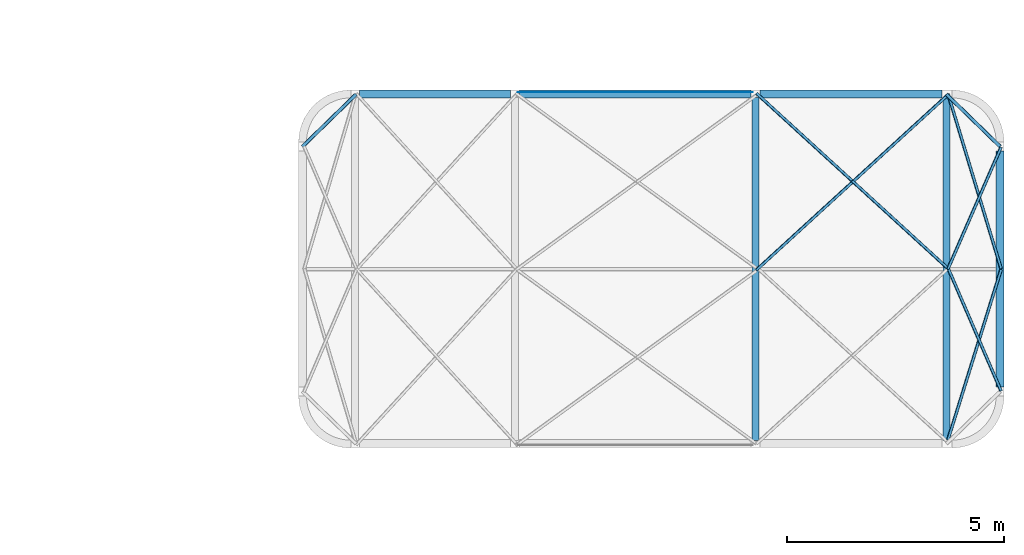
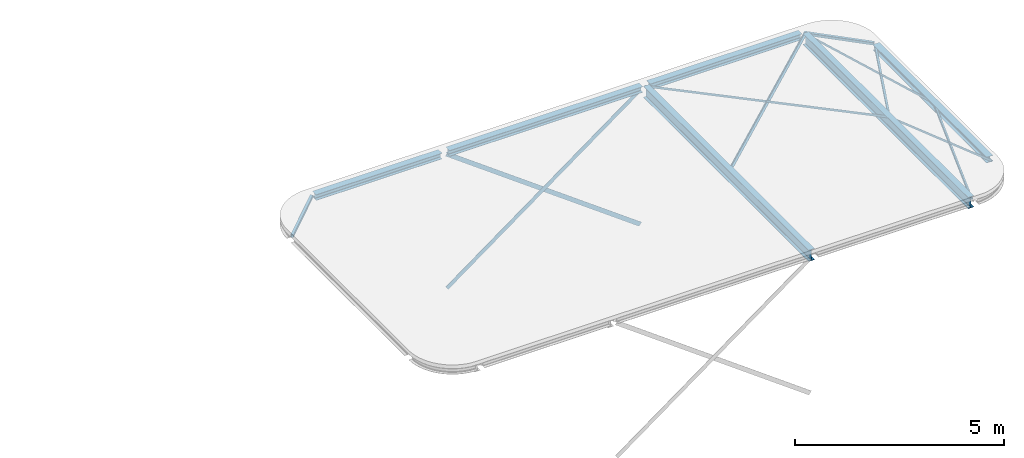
# One storey, part 4 of 14: 16 beams.
"""IFC2X3 building model written with IfcOpenShell, lengths in millimetres."""

from ifc_helpers import new_model, entity, si_unit, converted_unit, derived_unit, direction, frame, frame_2d, origin, place, context, subcontext, project, spatial, polyline, circle_curve, parameter, trimmed, segment, composite_curve, rectangle, i_section, outline, extrude, material, type_object, element, save


model = new_model("IFC2X3")

# Units and contexts
model_context = context("Model", 3, precision=0.01, world=origin(), true_north=direction((6.123031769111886e-17, 1.0)))
body_context = subcontext(model_context, "Body", "Model", "MODEL_VIEW")
ifc_project = project(units=[si_unit("LENGTHUNIT", "METRE", prefix="MILLI"), si_unit("AREAUNIT", "SQUARE_METRE"), si_unit("VOLUMEUNIT", "CUBIC_METRE"), derived_unit("MASSDENSITYUNIT", [(si_unit("MASSUNIT", "GRAM", prefix="KILO"), 1), (si_unit("LENGTHUNIT", "METRE"), -3)]), si_unit("MASSUNIT", "GRAM", prefix="KILO"), converted_unit("PLANEANGLEUNIT", "DEGREE", entity("IfcPlaneAngleMeasure", 0.017453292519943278), si_unit("PLANEANGLEUNIT", "RADIAN"), dimensions=[0, 0, 0, 0, 0, 0, 0])], contexts=[model_context])

# Site, building, storey
site_placement = place(None, origin())
site = spatial("IfcSite", under=ifc_project, at=site_placement, Name="Default", CompositionType="ELEMENT")
building_placement = place(site_placement, origin())
building = spatial("IfcBuilding", under=site, at=building_placement, Name="AT constructie", CompositionType="ELEMENT")
storey_placement = place(building_placement, frame((0.0, 0.0, 12043.0)))
storey = spatial("IfcBuildingStorey", under=building, at=storey_placement, Name="03 derde verdieping", CompositionType="ELEMENT", Elevation=12043.0)

# Beams
ifc_material = material(Name="h2_staal_S355")
beam_type_1 = type_object("IfcBeamType", Name="balk HE_gen_HEA180", PredefinedType="NOTDEFINED")
beam_1_placement = place(storey_placement, frame((89327.3746311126, 31391.043508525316, 0.0), z_axis=(0.0, 0.0, 1.0), x_axis=(-1.0, 0.0, 0.0)))
element("IfcBeam", 1, at=beam_1_placement, inside=storey, type_object=beam_type_1, material=ifc_material, Name="NLRS_28_SF_LIB_balk HEA_gen_AT:balk HE_gen_HEA180", ObjectType="NLRS_28_SF_LIB_balk HEA_gen_AT:balk HE_gen_HEA180", context=body_context, shape_type="SweptSolid", body=[
    extrude(i_section(OverallWidth=180.0000000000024, OverallDepth=171.0000000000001, WebThickness=5.999999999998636, FlangeThickness=9.500000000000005, FilletRadius=15.000000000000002, at=frame_2d((0.0, -4.334310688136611e-12), x_axis=(0.0, 1.0))), frame((22.69999999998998, 90.0, -85.50000000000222), z_axis=(1.0, 0.0, 0.0), x_axis=(0.0, 0.0, -1.0)), (0.0, 0.0, 1.0), 3475.1000000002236),
])
beam_2_placement = place(storey_placement, frame((94846.87463111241, 31391.043508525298, 0.0), z_axis=(0.0, 0.0, 1.0), x_axis=(-1.0, 0.0, 0.0)))
element("IfcBeam", 2, at=beam_2_placement, inside=storey, type_object=beam_type_1, material=ifc_material, Name="NLRS_28_SF_LIB_balk HEA_gen_AT:balk HE_gen_HEA180", ObjectType="NLRS_28_SF_LIB_balk HEA_gen_AT:balk HE_gen_HEA180", context=body_context, shape_type="SweptSolid", body=[
    extrude(i_section(OverallWidth=180.0000000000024, OverallDepth=171.0000000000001, WebThickness=5.999999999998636, FlangeThickness=9.500000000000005, FilletRadius=15.000000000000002, at=frame_2d((0.0, -4.334310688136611e-12), x_axis=(0.0, 1.0))), frame((2.6999999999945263, 90.0, -85.50000000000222), z_axis=(1.0, 0.0, 0.0), x_axis=(0.0, 0.0, -1.0)), (0.0, 0.0, 1.0), 5334.099999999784),
])
beam_3_placement = place(storey_placement, frame((99266.87463111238, 31391.043508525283, 0.0), z_axis=(0.0, 0.0, 1.0), x_axis=(-1.0, 0.0, 0.0)))
element("IfcBeam", 3, at=beam_3_placement, inside=storey, type_object=beam_type_1, material=ifc_material, Name="NLRS_28_SF_LIB_balk HEA_gen_AT:balk HE_gen_HEA180", ObjectType="NLRS_28_SF_LIB_balk HEA_gen_AT:balk HE_gen_HEA180", context=body_context, shape_type="SweptSolid", body=[
    extrude(i_section(OverallWidth=180.0000000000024, OverallDepth=171.0000000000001, WebThickness=5.999999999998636, FlangeThickness=9.500000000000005, FilletRadius=15.000000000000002, at=frame_2d((0.0, 0.0), x_axis=(0.0, 1.0))), frame((22.699999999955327, 90.0, -85.50000000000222), z_axis=(1.0, 0.0, 0.0), x_axis=(0.0, 0.0, -1.0)), (0.0, 0.0, 1.0), 4194.599999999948),
])
beam_4_placement = place(storey_placement, frame((100666.87463111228, 29991.043508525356, 0.0), z_axis=(0.0, 0.0, 1.0), x_axis=(0.0, -1.0, 0.0)))
element("IfcBeam", 4, at=beam_4_placement, inside=storey, type_object=beam_type_1, material=ifc_material, Name="NLRS_28_SF_LIB_balk HEA_gen_AT:balk HE_gen_HEA180", ObjectType="NLRS_28_SF_LIB_balk HEA_gen_AT:balk HE_gen_HEA180", context=body_context, shape_type="SweptSolid", body=[
    extrude(i_section(OverallWidth=179.99999999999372, OverallDepth=171.0000000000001, WebThickness=5.999999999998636, FlangeThickness=9.500000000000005, FilletRadius=15.000000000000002, at=frame_2d((-1.7330137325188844e-11, 0.0), x_axis=(1.0, 0.0))), frame((2.7000000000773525, -90.0, -85.50000000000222), z_axis=(1.0, 0.0, 0.0), x_axis=(0.0, -1.0, 0.0)), (0.0, 0.0, 1.0), 5434.599999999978),
])
beam_type_2 = type_object("IfcBeamType", Name="balk strip liggend_gen_120x10", PredefinedType="NOTDEFINED")
beam_5_placement = place(storey_placement, frame((89507.37463111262, 31346.04350852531, -176.34482473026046), z_axis=(0.5913336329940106, 0.0, 0.8064270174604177), x_axis=(0.8064270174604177, 0.0, -0.5913336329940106)))
element("IfcBeam", 5, at=beam_5_placement, inside=storey, type_object=beam_type_2, material=ifc_material, Name="NLRS_28_SF_LIB_balk strip_gen_AT:balk strip liggend_gen_120x10", ObjectType="NLRS_28_SF_LIB_balk strip_gen_AT:balk strip liggend_gen_120x10", context=body_context, shape_type="SweptSolid", body=[
    extrude(rectangle(XDim=119.99999999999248, YDim=10.000000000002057, at=frame_2d((0.0, -4.331646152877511e-12), x_axis=(1.0, 0.0))), frame((0.0, -5.0, 0.0), z_axis=(1.0, 0.0, 0.0), x_axis=(0.0, 0.0, -1.0)), (0.0, 0.0, 1.0), 6621.18193511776),
])
beam_6_placement = place(storey_placement, frame((94846.87463111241, 31346.04350852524, -170.41491895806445), z_axis=(-0.591904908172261, 0.0, 0.8060078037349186), x_axis=(-0.8060078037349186, 0.0, -0.591904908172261)))
element("IfcBeam", 6, at=beam_6_placement, inside=storey, type_object=beam_type_2, material=ifc_material, Name="NLRS_28_SF_LIB_balk strip_gen_AT:balk strip liggend_gen_120x10", ObjectType="NLRS_28_SF_LIB_balk strip_gen_AT:balk strip liggend_gen_120x10", context=body_context, shape_type="SweptSolid", body=[
    extrude(rectangle(XDim=119.99999999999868, YDim=10.000000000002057, at=frame_2d((0.0, 2.1658230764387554e-12), x_axis=(1.0, 0.0))), frame((0.0, 5.0, 0.0), z_axis=(1.0, 0.0, 0.0), x_axis=(0.0, 0.0, -1.0)), (0.0, 0.0, 1.0), 6624.625686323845),
])
beam_type_3 = type_object("IfcBeamType", Name="balk_gen_K80x80x4", PredefinedType="NOTDEFINED")
beam_7_placement = place(storey_placement, frame((99343.8746311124, 31292.533681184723, 0.0), z_axis=(0.0, 0.0, 1.0), x_axis=(0.7165996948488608, -0.6974846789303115, 0.0)))
element("IfcBeam", 7, at=beam_7_placement, inside=storey, type_object=beam_type_3, material=ifc_material, Name="NLRS_28_SF_LIB_balk koker vierkant_gen_AT:balk_gen_K80x80x4", ObjectType="NLRS_28_SF_LIB_balk koker vierkant_gen_AT:balk_gen_K80x80x4", context=body_context, shape_type="SweptSolid", body=[
    extrude(outline(composite_curve([segment(polyline([(-31.0, -40.0), (31.0, -40.0)]), True, "CONTINUOUS"), segment(trimmed(circle_curve(frame_2d((31.0, -31.0), x_axis=(0.0, -1.0)), 9.0), [parameter(359.9999999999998)], [parameter(89.99999999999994)], True, "PARAMETER"), True, "CONTINUOUS"), segment(polyline([(40.0, -31.0), (40.0, 31.0)]), True, "CONTINUOUS"), segment(trimmed(circle_curve(frame_2d((31.0, 31.0), x_axis=(0.0, -1.0)), 9.0), [parameter(90.0000000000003)], [parameter(180.00000000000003)], True, "PARAMETER"), True, "CONTINUOUS"), segment(polyline([(31.0, 40.0), (-31.0, 40.0)]), True, "CONTINUOUS"), segment(trimmed(circle_curve(frame_2d((-31.0, 31.0), x_axis=(0.0, -1.0)), 9.0), [parameter(179.99999999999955)], [parameter(269.9999999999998)], True, "PARAMETER"), True, "CONTINUOUS"), segment(polyline([(-40.0, 31.0), (-40.0, -31.0)]), True, "CONTINUOUS"), segment(trimmed(circle_curve(frame_2d((-31.0, -31.0), x_axis=(0.0, -1.0)), 9.0), [parameter(270.0000000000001)], [parameter(1.0177774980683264e-13)], True, "PARAMETER"), True, "CONTINUOUS")], self_intersect=False), holes=[composite_curve([segment(trimmed(circle_curve(frame_2d((-31.0, 31.0), x_axis=(0.0, -1.0)), 5.0), [parameter(180.0000000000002)], [parameter(270.0000000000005)], True, "PARAMETER"), False, "CONTINUOUS"), segment(polyline([(-31.0, 36.0), (31.0, 36.0)]), True, "CONTINUOUS"), segment(trimmed(circle_curve(frame_2d((31.0, 31.0), x_axis=(0.0, -1.0)), 5.0), [parameter(90.0000000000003)], [parameter(179.99999999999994)], True, "PARAMETER"), False, "CONTINUOUS"), segment(polyline([(36.0, 31.0), (36.0, -31.0)]), True, "CONTINUOUS"), segment(trimmed(circle_curve(frame_2d((31.0, -31.0), x_axis=(0.0, -1.0)), 5.0), [parameter(2.0355549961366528e-13)], [parameter(90.00000000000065)], True, "PARAMETER"), False, "CONTINUOUS"), segment(polyline([(31.0, -36.0), (-31.0, -36.0)]), True, "CONTINUOUS"), segment(trimmed(circle_curve(frame_2d((-31.0, -31.0), x_axis=(0.0, -1.0)), 5.0), [parameter(269.99999999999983)], [parameter(1.5266662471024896e-13)], True, "PARAMETER"), False, "CONTINUOUS"), segment(polyline([(-36.0, -31.0), (-36.0, 31.0)]), True, "CONTINUOUS")], self_intersect=False)]), frame((0.0, 0.0, -60.0), z_axis=(1.0, 0.0, 0.0), x_axis=(0.0, 0.0, -1.0)), (0.0, 0.0, 1.0), 1726.9055637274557),
])
beam_8_placement = place(storey_placement, frame((85749.87463111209, 31292.533681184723, 0.0), z_axis=(0.0, 0.0, 1.0), x_axis=(-0.7165996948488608, -0.6974846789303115, 0.0)))
element("IfcBeam", 8, at=beam_8_placement, inside=storey, type_object=beam_type_3, material=ifc_material, Name="NLRS_28_SF_LIB_balk koker vierkant_gen_AT:balk_gen_K80x80x4", ObjectType="NLRS_28_SF_LIB_balk koker vierkant_gen_AT:balk_gen_K80x80x4", context=body_context, shape_type="SweptSolid", body=[
    extrude(outline(composite_curve([segment(trimmed(circle_curve(frame_2d((31.0, 31.0), x_axis=(1.0, 0.0)), 9.0), [parameter(359.9999999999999)], [parameter(89.99999999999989)], True, "PARAMETER"), True, "CONTINUOUS"), segment(polyline([(31.0, 40.0), (-31.0, 40.0)]), True, "CONTINUOUS"), segment(trimmed(circle_curve(frame_2d((-31.0, 31.0), x_axis=(1.0, 0.0)), 9.0), [parameter(90.00000000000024)], [parameter(180.00000000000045)], True, "PARAMETER"), True, "CONTINUOUS"), segment(polyline([(-40.0, 31.0), (-40.0, -31.0)]), True, "CONTINUOUS"), segment(trimmed(circle_curve(frame_2d((-31.0, -31.0), x_axis=(1.0, 0.0)), 9.0), [parameter(179.99999999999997)], [parameter(269.9999999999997)], True, "PARAMETER"), True, "CONTINUOUS"), segment(polyline([(-31.0, -40.0), (31.0, -40.0)]), True, "CONTINUOUS"), segment(trimmed(circle_curve(frame_2d((31.0, -31.0), x_axis=(1.0, 0.0)), 9.0), [parameter(270.00000000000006)], [parameter(2.544443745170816e-13)], True, "PARAMETER"), True, "CONTINUOUS"), segment(polyline([(40.0, -31.0), (40.0, 31.0)]), True, "CONTINUOUS")], self_intersect=False), holes=[composite_curve([segment(polyline([(-31.0, 36.0), (31.0, 36.0)]), True, "CONTINUOUS"), segment(trimmed(circle_curve(frame_2d((31.0, 31.0), x_axis=(1.0, 0.0)), 5.0), [parameter(359.99999999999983)], [parameter(90.00000000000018)], True, "PARAMETER"), False, "CONTINUOUS"), segment(polyline([(36.0, 31.0), (36.0, -31.0)]), True, "CONTINUOUS"), segment(trimmed(circle_curve(frame_2d((31.0, -31.0), x_axis=(1.0, 0.0)), 5.0), [parameter(269.9999999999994)], [parameter(359.9999999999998)], True, "PARAMETER"), False, "CONTINUOUS"), segment(polyline([(31.0, -36.0), (-31.0, -36.0)]), True, "CONTINUOUS"), segment(trimmed(circle_curve(frame_2d((-31.0, -31.0), x_axis=(1.0, 0.0)), 5.0), [parameter(180.00000000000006)], [parameter(269.9999999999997)], True, "PARAMETER"), False, "CONTINUOUS"), segment(polyline([(-36.0, -31.0), (-36.0, 31.0)]), True, "CONTINUOUS"), segment(trimmed(circle_curve(frame_2d((-31.0, 31.0), x_axis=(1.0, 0.0)), 5.0), [parameter(89.99999999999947)], [parameter(179.9999999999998)], True, "PARAMETER"), False, "CONTINUOUS")], self_intersect=False)]), frame((0.0, 0.0, -60.0), z_axis=(1.0, 0.0, 0.0), x_axis=(0.0, 1.0, 0.0)), (0.0, 0.0, 1.0), 1726.9055637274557),
])
beam_type_4 = type_object("IfcBeamType", Name="balk IPE_gen_330", PredefinedType="NOTDEFINED")
beam_9_placement = place(storey_placement, frame((94946.87463111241, 23322.043549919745, 0.0), z_axis=(0.0, 0.0, 1.0), x_axis=(0.0, 1.0, 0.0)))
element("IfcBeam", 9, at=beam_9_placement, inside=storey, type_object=beam_type_4, material=ifc_material, Name="NLRS_28_SF_LIB_balk IPE_gen_AT:balk IPE_gen_330", ObjectType="NLRS_28_SF_LIB_balk IPE_gen_AT:balk IPE_gen_330", context=body_context, shape_type="SweptSolid", body=[
    extrude(outline(composite_curve([segment(polyline([(153.49999999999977, -80.0), (165.0, -80.0)]), True, "CONTINUOUS"), segment(polyline([(165.0, -80.0), (165.0, 80.0)]), True, "CONTINUOUS"), segment(polyline([(165.0, 80.0), (153.49999999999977, 80.0)]), True, "CONTINUOUS"), segment(polyline([(153.49999999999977, 80.0), (153.49999999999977, 21.749999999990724)]), True, "CONTINUOUS"), segment(trimmed(circle_curve(frame_2d((135.50000000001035, 21.749999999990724), x_axis=(1.0, 0.0)), 17.999999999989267), [parameter(269.99999999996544)], [parameter(0.0)], True, "PARAMETER"), False, "CONTINUOUS"), segment(polyline([(135.4999999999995, 3.749999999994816), (-135.49999999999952, 3.749999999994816)]), True, "CONTINUOUS"), segment(trimmed(circle_curve(frame_2d((-135.50000000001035, 21.749999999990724), x_axis=(0.0, -1.0)), 17.999999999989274), [parameter(269.99999999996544)], [parameter(0.0)], True, "PARAMETER"), False, "CONTINUOUS"), segment(polyline([(-153.49999999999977, 21.749999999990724), (-153.49999999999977, 80.0)]), True, "CONTINUOUS"), segment(polyline([(-153.49999999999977, 80.0), (-165.0, 80.0)]), True, "CONTINUOUS"), segment(polyline([(-165.0, 80.0), (-165.0, -80.0)]), True, "CONTINUOUS"), segment(polyline([(-165.0, -80.0), (-153.49999999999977, -80.0)]), True, "CONTINUOUS"), segment(polyline([(-153.49999999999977, -80.0), (-153.49999999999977, -21.749999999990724)]), True, "CONTINUOUS"), segment(trimmed(circle_curve(frame_2d((-135.50000000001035, -21.75000000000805), x_axis=(-1.0, 0.0)), 17.999999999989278), [parameter(269.99999999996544)], [parameter(0.0)], True, "PARAMETER"), False, "CONTINUOUS"), segment(polyline([(-135.49999999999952, -3.749999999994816), (135.4999999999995, -3.749999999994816)]), True, "CONTINUOUS"), segment(trimmed(circle_curve(frame_2d((135.50000000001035, -21.75000000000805), x_axis=(0.0, 1.0)), 17.999999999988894), [parameter(269.99999999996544)], [parameter(0.0)], True, "PARAMETER"), False, "CONTINUOUS"), segment(polyline([(153.49999999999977, -21.75000000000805), (153.49999999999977, -80.0)]), True, "CONTINUOUS")], self_intersect=False)), frame((0.0, 0.0, -165.0), z_axis=(1.0, 0.0, 0.0), x_axis=(0.0, 0.0, -1.0)), (0.0, 0.0, 1.0), 7897.999958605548),
])
beam_10_placement = place(storey_placement, frame((99346.87463111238, 23322.043549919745, 0.0), z_axis=(0.0, 0.0, 1.0), x_axis=(0.0, 1.0, 0.0)))
element("IfcBeam", 10, at=beam_10_placement, inside=storey, type_object=beam_type_4, material=ifc_material, Name="NLRS_28_SF_LIB_balk IPE_gen_AT:balk IPE_gen_330", ObjectType="NLRS_28_SF_LIB_balk IPE_gen_AT:balk IPE_gen_330", context=body_context, shape_type="SweptSolid", body=[
    extrude(outline(composite_curve([segment(polyline([(153.49999999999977, -80.0), (165.0, -80.0)]), True, "CONTINUOUS"), segment(polyline([(165.0, -80.0), (165.0, 80.0)]), True, "CONTINUOUS"), segment(polyline([(165.0, 80.0), (153.49999999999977, 80.0)]), True, "CONTINUOUS"), segment(polyline([(153.49999999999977, 80.0), (153.49999999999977, 21.749999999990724)]), True, "CONTINUOUS"), segment(trimmed(circle_curve(frame_2d((135.50000000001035, 21.749999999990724), x_axis=(1.0, 0.0)), 17.999999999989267), [parameter(269.99999999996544)], [parameter(0.0)], True, "PARAMETER"), False, "CONTINUOUS"), segment(polyline([(135.4999999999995, 3.749999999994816), (-135.49999999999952, 3.749999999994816)]), True, "CONTINUOUS"), segment(trimmed(circle_curve(frame_2d((-135.50000000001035, 21.749999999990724), x_axis=(0.0, -1.0)), 17.999999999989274), [parameter(269.99999999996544)], [parameter(0.0)], True, "PARAMETER"), False, "CONTINUOUS"), segment(polyline([(-153.49999999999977, 21.749999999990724), (-153.49999999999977, 80.0)]), True, "CONTINUOUS"), segment(polyline([(-153.49999999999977, 80.0), (-165.0, 80.0)]), True, "CONTINUOUS"), segment(polyline([(-165.0, 80.0), (-165.0, -80.0)]), True, "CONTINUOUS"), segment(polyline([(-165.0, -80.0), (-153.49999999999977, -80.0)]), True, "CONTINUOUS"), segment(polyline([(-153.49999999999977, -80.0), (-153.49999999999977, -21.749999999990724)]), True, "CONTINUOUS"), segment(trimmed(circle_curve(frame_2d((-135.50000000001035, -21.75000000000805), x_axis=(-1.0, 0.0)), 17.999999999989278), [parameter(269.99999999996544)], [parameter(0.0)], True, "PARAMETER"), False, "CONTINUOUS"), segment(polyline([(-135.49999999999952, -3.749999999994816), (135.4999999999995, -3.749999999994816)]), True, "CONTINUOUS"), segment(trimmed(circle_curve(frame_2d((135.50000000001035, -21.75000000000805), x_axis=(0.0, 1.0)), 17.999999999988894), [parameter(269.99999999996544)], [parameter(0.0)], True, "PARAMETER"), False, "CONTINUOUS"), segment(polyline([(153.49999999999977, -21.75000000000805), (153.49999999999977, -80.0)]), True, "CONTINUOUS")], self_intersect=False)), frame((0.0, 0.0, -165.0), z_axis=(1.0, 0.0, 0.0), x_axis=(0.0, 0.0, -1.0)), (0.0, 0.0, 1.0), 7897.999958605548),
])
beam_type_5 = type_object("IfcBeamType", Name="balk_gen_L70x70x7", PredefinedType="NOTDEFINED")
beam_11_placement = place(storey_placement, frame((94946.87463111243, 27271.043508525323, 0.0), z_axis=(0.0, 0.0, 1.0), x_axis=(0.7378498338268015, 0.6749649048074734, 0.0)))
element("IfcBeam", 11, at=beam_11_placement, inside=storey, type_object=beam_type_5, material=ifc_material, Name="NLRS_28_SF_LIB_balk hoeklijn_gen_AT:balk_gen_L70x70x7", ObjectType="NLRS_28_SF_LIB_balk hoeklijn_gen_AT:balk_gen_L70x70x7", context=body_context, shape_type="SweptSolid", body=[
    extrude(outline(composite_curve([segment(polyline([(23.94444444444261, -43.55555555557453), (26.44444444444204, -43.55555555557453)]), True, "CONTINUOUS"), segment(polyline([(26.44444444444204, -43.55555555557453), (26.44444444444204, 26.444444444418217)]), True, "CONTINUOUS"), segment(polyline([(26.44444444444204, 26.44444444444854), (-43.55555555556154, 26.44444444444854)]), True, "CONTINUOUS"), segment(polyline([(-43.55555555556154, 26.44444444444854), (-43.55555555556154, 23.944444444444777)]), True, "CONTINUOUS"), segment(trimmed(circle_curve(frame_2d((-39.05555555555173, 23.944444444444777), x_axis=(-1.0, 0.0)), 4.500000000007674), [parameter(0.0)], [parameter(89.99999999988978)], True, "PARAMETER"), True, "CONTINUOUS"), segment(polyline([(-39.055555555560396, 19.444444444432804), (10.44444444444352, 19.444444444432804)]), True, "CONTINUOUS"), segment(trimmed(circle_curve(frame_2d((10.444444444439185, 10.444444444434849), x_axis=(0.0, 1.0)), 9.000000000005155), [parameter(270.0000000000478)], [parameter(0.0)], True, "PARAMETER"), False, "CONTINUOUS"), segment(polyline([(19.444444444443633, 10.444444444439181), (19.444444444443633, -39.05555555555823)]), True, "CONTINUOUS"), segment(trimmed(circle_curve(frame_2d((23.944444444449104, -39.05555555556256), x_axis=(-1.0, 0.0)), 4.500000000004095), [parameter(0.0)], [parameter(89.99999999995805)], True, "PARAMETER"), True, "CONTINUOUS")], self_intersect=False)), frame((0.0, -19.444444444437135, -73.55555555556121), z_axis=(1.0, 0.0, 0.0), x_axis=(0.0, 0.0, -1.0)), (0.0, 0.0, 1.0), 5963.27301068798),
])
beam_12_placement = place(storey_placement, frame((99343.03200209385, 27274.229930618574, 0.0), z_axis=(0.0, 0.0, 1.0), x_axis=(-0.7378223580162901, 0.6749949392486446, 0.0)))
element("IfcBeam", 12, at=beam_12_placement, inside=storey, type_object=beam_type_5, material=ifc_material, Name="NLRS_28_SF_LIB_balk hoeklijn_gen_AT:balk_gen_L70x70x7", ObjectType="NLRS_28_SF_LIB_balk hoeklijn_gen_AT:balk_gen_L70x70x7", context=body_context, shape_type="SweptSolid", body=[
    extrude(outline(composite_curve([segment(polyline([(23.94444444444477, -43.55555555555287), (26.4444444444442, -43.55555555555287)]), True, "CONTINUOUS"), segment(polyline([(26.4444444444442, -43.55555555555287), (26.4444444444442, 26.444444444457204)]), True, "CONTINUOUS"), segment(polyline([(26.4444444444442, 26.444444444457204), (-43.55555555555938, 26.444444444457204)]), True, "CONTINUOUS"), segment(polyline([(-43.55555555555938, 26.444444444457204), (-43.55555555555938, 23.94444444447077)]), True, "CONTINUOUS"), segment(trimmed(circle_curve(frame_2d((-39.05555555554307, 23.9444444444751), x_axis=(-1.0, 0.0)), 4.500000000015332), [parameter(0.0)], [parameter(89.99999999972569)], True, "PARAMETER"), True, "CONTINUOUS"), segment(polyline([(-39.055555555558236, 19.444444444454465), (10.44444444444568, 19.444444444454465)]), True, "CONTINUOUS"), segment(trimmed(circle_curve(frame_2d((10.444444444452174, 10.44444444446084), x_axis=(0.0, 1.0)), 8.999999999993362), [parameter(269.99999999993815)], [parameter(0.0)], True, "PARAMETER"), False, "CONTINUOUS"), segment(polyline([(19.444444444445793, 10.44444444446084), (19.444444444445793, -39.055555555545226)]), True, "CONTINUOUS"), segment(trimmed(circle_curve(frame_2d((23.94444444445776, -39.055555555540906), x_axis=(-1.0, 0.0)), 4.50000000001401), [parameter(0.0)], [parameter(89.99999999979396)], True, "PARAMETER"), True, "CONTINUOUS")], self_intersect=False)), frame((0.0, -19.444444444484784, -73.55555555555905), z_axis=(1.0, 0.0, 0.0), x_axis=(0.0, 0.0, -1.0)), (0.0, 0.0, 1.0), 5958.287009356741),
])
beam_13_placement = place(storey_placement, frame((100571.8746311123, 27271.043508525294, 0.0), z_axis=(0.0, 0.0, 1.0), x_axis=(-0.29045439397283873, 0.9568888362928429, 0.0)))
element("IfcBeam", 13, at=beam_13_placement, inside=storey, type_object=beam_type_5, material=ifc_material, Name="NLRS_28_SF_LIB_balk hoeklijn_gen_AT:balk_gen_L70x70x7", ObjectType="NLRS_28_SF_LIB_balk hoeklijn_gen_AT:balk_gen_L70x70x7", context=body_context, shape_type="SweptSolid", body=[
    extrude(outline(composite_curve([segment(polyline([(23.94444444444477, -43.55555555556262), (26.4444444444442, -43.55555555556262)]), True, "CONTINUOUS"), segment(polyline([(26.4444444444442, -43.55555555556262), (26.4444444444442, 26.444444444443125)]), True, "CONTINUOUS"), segment(polyline([(26.4444444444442, 26.444444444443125), (-43.55555555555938, 26.444444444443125)]), True, "CONTINUOUS"), segment(polyline([(-43.55555555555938, 26.444444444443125), (-43.55555555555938, 23.94444444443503)]), True, "CONTINUOUS"), segment(trimmed(circle_curve(frame_2d((-39.05555555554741, 23.944444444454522), x_axis=(-1.0, 0.0)), 4.500000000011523), [parameter(0.0)], [parameter(89.9999999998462)], True, "PARAMETER"), True, "CONTINUOUS"), segment(polyline([(-39.055555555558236, 19.444444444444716), (10.44444444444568, 19.444444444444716)]), True, "CONTINUOUS"), segment(trimmed(circle_curve(frame_2d((10.444444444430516, 10.44444444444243), x_axis=(0.0, 1.0)), 9.000000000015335), [parameter(270.0000000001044)], [parameter(0.0)], True, "PARAMETER"), False, "CONTINUOUS"), segment(polyline([(19.444444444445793, 10.444444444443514), (19.444444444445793, -39.055555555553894)]), True, "CONTINUOUS"), segment(trimmed(circle_curve(frame_2d((23.9444444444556, -39.055555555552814), x_axis=(-1.0, 0.0)), 4.500000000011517), [parameter(0.0)], [parameter(89.9999999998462)], True, "PARAMETER"), True, "CONTINUOUS")], self_intersect=False)), frame((0.0, -19.44444444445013, -73.55555555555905), z_axis=(1.0, 0.0, 0.0), x_axis=(0.0, 0.0, -1.0)), (0.0, 0.0, 1.0), 4206.340221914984),
])
beam_14_placement = place(storey_placement, frame((99346.8746311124, 27278.43022522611, 0.0), z_axis=(0.0, 0.0, 1.0), x_axis=(0.3996966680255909, 0.9166474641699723, 0.0)))
element("IfcBeam", 14, at=beam_14_placement, inside=storey, type_object=beam_type_5, material=ifc_material, Name="NLRS_28_SF_LIB_balk hoeklijn_gen_AT:balk_gen_L70x70x7", ObjectType="NLRS_28_SF_LIB_balk hoeklijn_gen_AT:balk_gen_L70x70x7", context=body_context, shape_type="SweptSolid", body=[
    extrude(outline(composite_curve([segment(polyline([(23.94444444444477, -43.555555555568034), (26.4444444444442, -43.555555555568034)]), True, "CONTINUOUS"), segment(polyline([(26.4444444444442, -43.555555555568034), (26.4444444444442, 26.444444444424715)]), True, "CONTINUOUS"), segment(polyline([(26.4444444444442, 26.444444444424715), (-43.55555555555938, 26.444444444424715)]), True, "CONTINUOUS"), segment(polyline([(-43.55555555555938, 26.444444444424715), (-43.55555555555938, 23.94444444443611)]), True, "CONTINUOUS"), segment(trimmed(circle_curve(frame_2d((-39.05555555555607, 23.94444444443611), x_axis=(-1.0, 0.0)), 4.500000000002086), [parameter(0.0)], [parameter(89.99999999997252)], True, "PARAMETER"), True, "CONTINUOUS"), segment(polyline([(-39.055555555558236, 19.444444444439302), (10.44444444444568, 19.444444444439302)]), True, "CONTINUOUS"), segment(trimmed(circle_curve(frame_2d((10.444444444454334, 10.444444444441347), x_axis=(0.0, 1.0)), 8.999999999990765), [parameter(269.9999999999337)], [parameter(0.0)], True, "PARAMETER"), False, "CONTINUOUS"), segment(polyline([(19.444444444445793, 10.444444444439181), (19.444444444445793, -39.0555555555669)]), True, "CONTINUOUS"), segment(trimmed(circle_curve(frame_2d((23.94444444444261, -39.0555555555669), x_axis=(-1.0, 0.0)), 4.49999999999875), [parameter(0.0)], [parameter(90.00000000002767)], True, "PARAMETER"), True, "CONTINUOUS")], self_intersect=False)), frame((0.0, -19.444444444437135, -73.55555555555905), z_axis=(1.0, 0.0, 0.0), x_axis=(0.0, 0.0, -1.0)), (0.0, 0.0, 1.0), 3064.8241478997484),
])
beam_15_placement = place(storey_placement, frame((100571.8746311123, 24453.076689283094, 0.0), z_axis=(0.0, 0.0, 1.0), x_axis=(-0.39599165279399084, 0.918254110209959, 0.0)))
element("IfcBeam", 15, at=beam_15_placement, inside=storey, type_object=beam_type_5, material=ifc_material, Name="NLRS_28_SF_LIB_balk hoeklijn_gen_AT:balk_gen_L70x70x7", ObjectType="NLRS_28_SF_LIB_balk hoeklijn_gen_AT:balk_gen_L70x70x7", context=body_context, shape_type="SweptSolid", body=[
    extrude(outline(composite_curve([segment(polyline([(23.944444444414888, -43.55555555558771), (26.44444444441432, -43.55555555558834)]), True, "CONTINUOUS"), segment(polyline([(26.44444444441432, -43.55555555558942), (26.444444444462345, 26.444444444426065)]), True, "CONTINUOUS"), segment(polyline([(26.444444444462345, 26.444444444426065), (-43.55555555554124, 26.44444444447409)]), True, "CONTINUOUS"), segment(polyline([(-43.55555555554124, 26.44444444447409), (-43.55555555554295, 23.944444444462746)]), True, "CONTINUOUS"), segment(trimmed(circle_curve(frame_2d((-39.055555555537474, 23.94444444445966), x_axis=(-1.0, 0.0)), 4.500000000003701), [parameter(0.0)], [parameter(89.99999999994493)], True, "PARAMETER"), True, "CONTINUOUS"), segment(polyline([(-39.05555555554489, 19.44444444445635), (10.44444444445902, 19.44444444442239)]), True, "CONTINUOUS"), segment(trimmed(circle_curve(frame_2d((10.44444444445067, 10.4444444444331), x_axis=(0.0, 1.0)), 9.00000000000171), [parameter(270.0000000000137)], [parameter(0.0)], True, "PARAMETER"), False, "CONTINUOUS"), segment(polyline([(19.44444444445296, 10.444444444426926), (19.444444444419, -39.055555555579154)]), True, "CONTINUOUS"), segment(trimmed(circle_curve(frame_2d((23.944444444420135, -39.05555555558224), x_axis=(-1.0, 0.0)), 4.500000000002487), [parameter(0.0)], [parameter(89.99999999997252)], True, "PARAMETER"), True, "CONTINUOUS")], self_intersect=False)), frame((0.0, -19.44444444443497, -73.55555555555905), z_axis=(1.0, 0.0, 0.0), x_axis=(0.0, 0.0, -1.0)), (0.0, 0.0, 1.0), 3093.499550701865),
])
beam_16_placement = place(storey_placement, frame((99346.87463111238, 23341.0435085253, 0.0), z_axis=(0.0, 0.0, 1.0), x_axis=(0.29766731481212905, 0.9546696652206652, 0.0)))
element("IfcBeam", 16, at=beam_16_placement, inside=storey, type_object=beam_type_5, material=ifc_material, Name="NLRS_28_SF_LIB_balk hoeklijn_gen_AT:balk_gen_L70x70x7", ObjectType="NLRS_28_SF_LIB_balk hoeklijn_gen_AT:balk_gen_L70x70x7", context=body_context, shape_type="SweptSolid", body=[
    extrude(outline(composite_curve([segment(polyline([(23.94444444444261, -43.555555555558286), (26.44444444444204, -43.555555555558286)]), True, "CONTINUOUS"), segment(polyline([(26.44444444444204, -43.555555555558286), (26.44444444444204, 26.444444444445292)]), True, "CONTINUOUS"), segment(polyline([(26.44444444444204, 26.444444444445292), (-43.55555555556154, 26.444444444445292)]), True, "CONTINUOUS"), segment(polyline([(-43.55555555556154, 26.444444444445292), (-43.55555555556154, 23.944444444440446)]), True, "CONTINUOUS"), segment(trimmed(circle_curve(frame_2d((-39.055555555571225, 23.944444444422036), x_axis=(-1.0, 0.0)), 4.499999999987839), [parameter(0.0)], [parameter(90.00000000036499)], True, "PARAMETER"), True, "CONTINUOUS"), segment(polyline([(-39.055555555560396, 19.444444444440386), (10.44444444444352, 19.444444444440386)]), True, "CONTINUOUS"), segment(trimmed(circle_curve(frame_2d((10.44444444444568, 10.444444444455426), x_axis=(0.0, 1.0)), 8.999999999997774), [parameter(269.9999999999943)], [parameter(0.0)], True, "PARAMETER"), False, "CONTINUOUS"), segment(polyline([(19.444444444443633, 10.44444444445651), (19.444444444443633, -39.05555555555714)]), True, "CONTINUOUS"), segment(trimmed(circle_curve(frame_2d((23.94444444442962, -39.05555555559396), x_axis=(-1.0, 0.0)), 4.499999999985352), [parameter(0.0)], [parameter(90.00000000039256)], True, "PARAMETER"), True, "CONTINUOUS")], self_intersect=False)), frame((0.0, -19.44444444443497, -73.55555555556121), z_axis=(1.0, 0.0, 0.0), x_axis=(0.0, 0.0, -1.0)), (0.0, 0.0, 1.0), 4115.332584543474),
])

save(model, "model.ifc")
